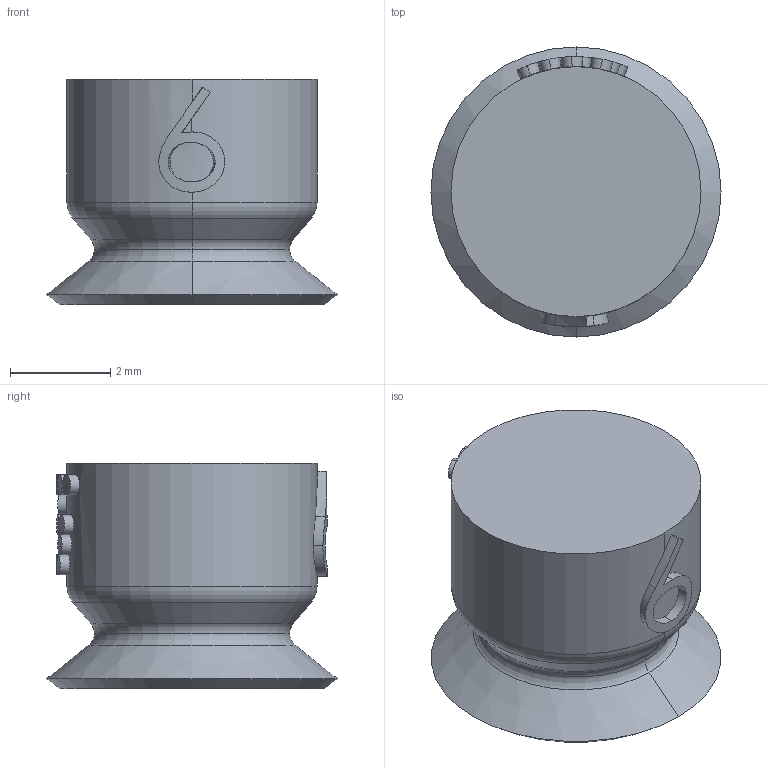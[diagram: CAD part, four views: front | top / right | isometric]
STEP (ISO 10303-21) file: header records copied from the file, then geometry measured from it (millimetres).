
FILE_DESCRIPTION (( 'STEP AP203' ), '1' );
FILE_NAME ('2321455.STEP', '2020-12-03T11:29:27', ( '' ), ( '' ), 'SwSTEP 2.0', 'SolidWorks 2020', '' );
FILE_SCHEMA (( 'CONFIG_CONTROL_DESIGN' ));
Length unit declared in the file: millimetre
Products named in the file (2): 2321455; Copia di 2321455-AS01^2321455
Assembly tree (1 placements, depth 2):
  2321455
    Copia di 2321455-AS01^2321455
Bounding box: 5.8 x 5.8 x 4.5 mm (x, y, z)
Volume: 84.5 mm3; surface area: 126.7 mm2
Topology: 1 solids, 1 shells, 69 faces, 156 edges, 100 vertices
Faces by surface type: bspline 36, cylinder 19, torus 6, cone 6, plane 2
Entity records: 4092 total; most frequent: CARTESIAN_POINT 2677, ORIENTED_EDGE 312, EDGE_CURVE 156, DIRECTION 132, B_SPLINE_CURVE_WITH_KNOTS 120, VERTEX_POINT 100, EDGE_LOOP 80, ADVANCED_FACE 69
